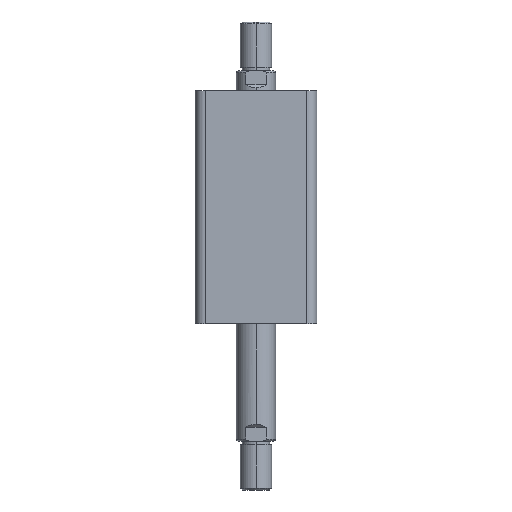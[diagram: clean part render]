
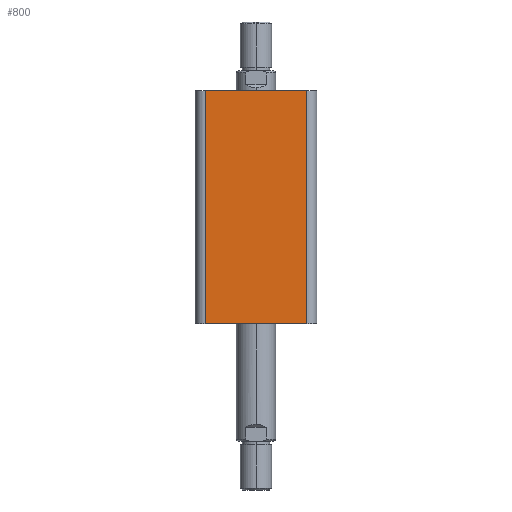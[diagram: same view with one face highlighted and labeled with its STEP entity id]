
A CAD part, left-side view. The second image highlights one B-rep face of the part: STEP entity #800.
In plain terms, the highlighted planar face has unit normal (-1, 0, 0).
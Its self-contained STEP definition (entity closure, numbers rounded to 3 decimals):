
#359 = EDGE_CURVE ( 'NONE', #1116, #1115, #1307, .T. ) ;
#360 = EDGE_CURVE ( 'NONE', #1115, #1146, #1303, .T. ) ;
#361 = EDGE_CURVE ( 'NONE', #730, #1146, #1311, .T. ) ;
#362 = EDGE_CURVE ( 'NONE', #730, #1116, #1313, .T. ) ;
#730 = VERTEX_POINT ( 'NONE', #2690 ) ;
#800 = ADVANCED_FACE ( 'NONE', ( #2073 ), #1821, .F. ) ;
#908 = AXIS2_PLACEMENT_3D ( 'NONE', #1813, #1823, #1824 ) ;
#1115 = VERTEX_POINT ( 'NONE', #1462 ) ;
#1116 = VERTEX_POINT ( 'NONE', #1463 ) ;
#1146 = VERTEX_POINT ( 'NONE', #1493 ) ;
#1303 = LINE ( 'NONE', #2413, #1312 ) ;
#1307 = LINE ( 'NONE', #2532, #1310 ) ;
#1310 = VECTOR ( 'NONE', #2533, 1000. ) ;
#1311 = LINE ( 'NONE', #2535, #1314 ) ;
#1312 = VECTOR ( 'NONE', #2534, 1000. ) ;
#1313 = LINE ( 'NONE', #2537, #1316 ) ;
#1314 = VECTOR ( 'NONE', #2536, 1000. ) ;
#1316 = VECTOR ( 'NONE', #2538, 1000. ) ;
#1462 = CARTESIAN_POINT ( 'NONE',  ( -31., -26., 0. ) ) ;
#1463 = CARTESIAN_POINT ( 'NONE',  ( -31., 26., 0. ) ) ;
#1493 = CARTESIAN_POINT ( 'NONE',  ( -31., -26., 119. ) ) ;
#1813 = CARTESIAN_POINT ( 'NONE',  ( -31., 31., 119. ) ) ;
#1821 = PLANE ( 'NONE',  #908 ) ;
#1823 = DIRECTION ( 'NONE',  ( 1., 0., 0. ) ) ;
#1824 = DIRECTION ( 'NONE',  ( 0., 1., 0. ) ) ;
#2073 = FACE_OUTER_BOUND ( 'NONE', #3210, .T. ) ;
#2413 = CARTESIAN_POINT ( 'NONE',  ( -31., -26., 119. ) ) ;
#2532 = CARTESIAN_POINT ( 'NONE',  ( -31., 31., 0. ) ) ;
#2533 = DIRECTION ( 'NONE',  ( 0., -1., 0. ) ) ;
#2534 = DIRECTION ( 'NONE',  ( 0., 0., 1. ) ) ;
#2535 = CARTESIAN_POINT ( 'NONE',  ( -31., 31., 119. ) ) ;
#2536 = DIRECTION ( 'NONE',  ( 0., -1., 0. ) ) ;
#2537 = CARTESIAN_POINT ( 'NONE',  ( -31., 26., 119. ) ) ;
#2538 = DIRECTION ( 'NONE',  ( 0., 0., -1. ) ) ;
#2690 = CARTESIAN_POINT ( 'NONE',  ( -31., 26., 119. ) ) ;
#3046 = ORIENTED_EDGE ( 'NONE', *, *, #359, .T. ) ;
#3047 = ORIENTED_EDGE ( 'NONE', *, *, #360, .T. ) ;
#3048 = ORIENTED_EDGE ( 'NONE', *, *, #361, .F. ) ;
#3049 = ORIENTED_EDGE ( 'NONE', *, *, #362, .T. ) ;
#3210 = EDGE_LOOP ( 'NONE', ( #3046, #3047, #3048, #3049 ) ) ;
